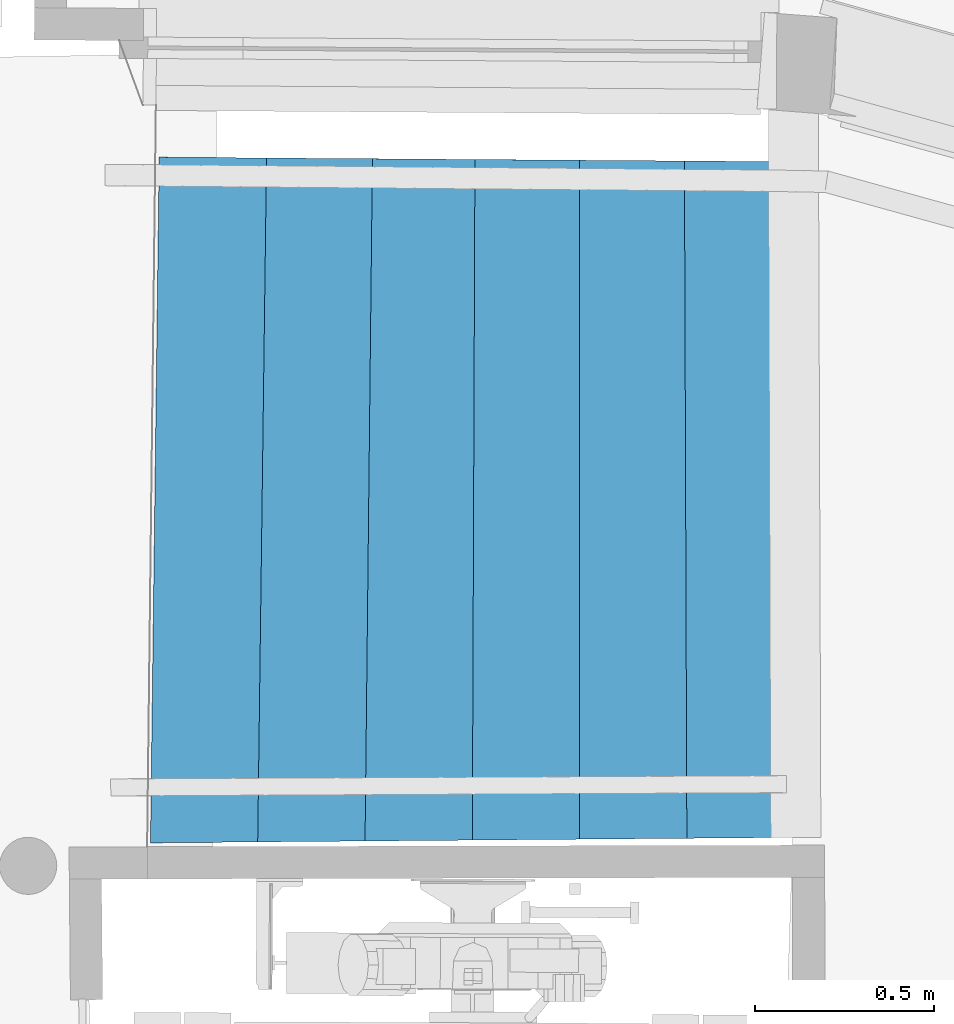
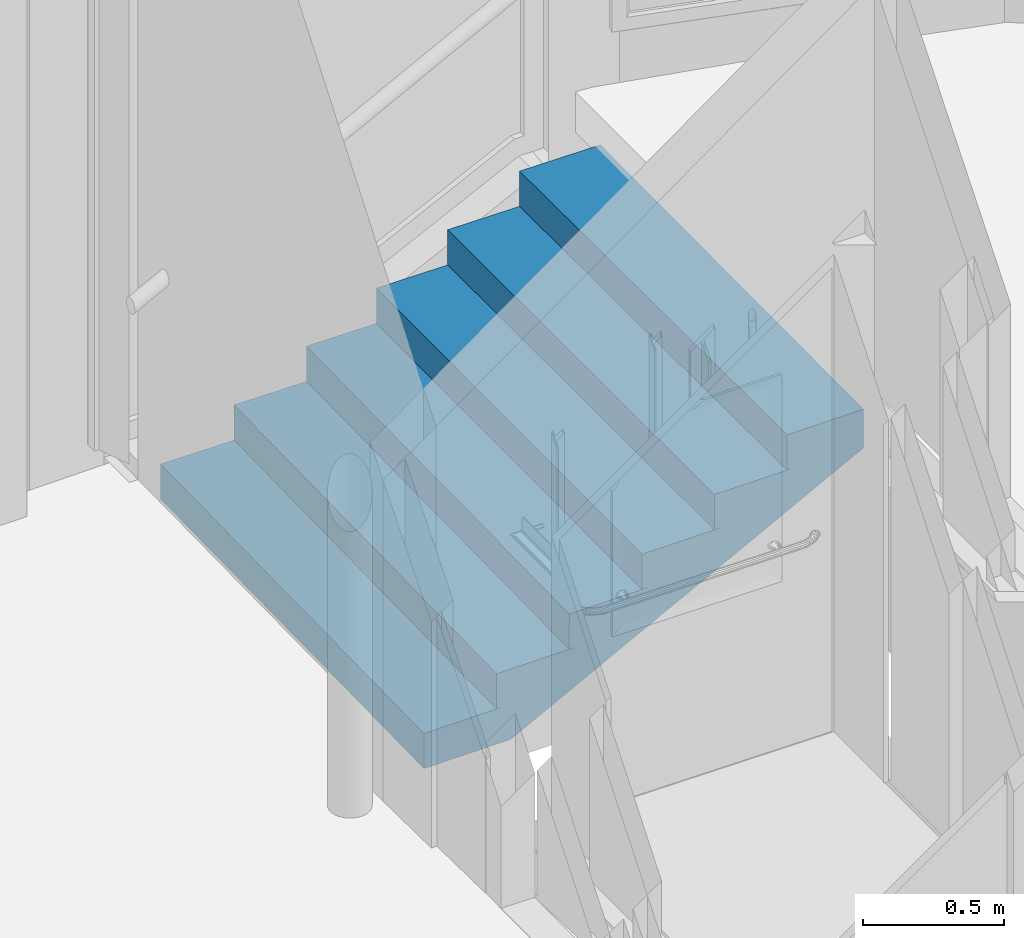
# One storey, part 115 of 133: 1 stair flight, 1 element without a shape of its own.
"""IFC2X3 building model written with IfcOpenShell, lengths in centimetres."""

from ifc_helpers import new_model, entity, si_unit, converted_unit, direction, frame, origin, origin_with_axes, place, context, subcontext, project, spatial, faceted_brep, material, material_list, element, aggregate, save


model = new_model("IFC2X3")

# Units and contexts
model_context = context("Model", 3, precision=0.0001, world=origin(), true_north=direction((0.225632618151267, 0.974212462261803, 0.0)))
body_context = subcontext(model_context, "Body", "Model", "MODEL_VIEW")
ifc_project = project(units=[si_unit("LENGTHUNIT", "METRE", prefix="CENTI"), si_unit("AREAUNIT", "SQUARE_METRE", prefix="CENTI"), si_unit("VOLUMEUNIT", "CUBIC_METRE", prefix="CENTI"), converted_unit("PLANEANGLEUNIT", "DEGREE", entity("IfcRatioMeasure", 0.0174532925), si_unit("PLANEANGLEUNIT", "RADIAN"), dimensions=[0, 0, 0, 0, 0, 0, 0])], contexts=[model_context])

# Site, building, storey
site_placement = place(None, origin_with_axes())
site = spatial("IfcSite", under=ifc_project, at=site_placement, Name="Default Site", CompositionType="ELEMENT")
building_placement = place(site_placement, origin_with_axes())
building = spatial("IfcBuilding", under=site, at=building_placement, Name="Default Building", CompositionType="ELEMENT")
storey_placement = place(building_placement, frame((0.0, 0.0, -291.400371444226), z_axis=(0.0, 0.0, 1.0), x_axis=(1.0, 0.0, 0.0)))
storey = spatial("IfcBuildingStorey", under=building, at=storey_placement, Name="Rez-de-Jardin", CompositionType="ELEMENT", Elevation=-291.400371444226)

# Stair, stair flight
stair_placement = place(storey_placement, frame((1123.85386276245, -333.715009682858, 0.0), z_axis=(0.0, 0.0, 1.0), x_axis=(1.0, 0.0, 0.0)))
stair = element("IfcStair", 1, at=stair_placement, inside=storey, Name="Escalier 574859", ShapeType="NOTDEFINED")
ifc_material_1 = material(Name="Béton (01)")
ifc_material_2 = material(Name="Carreau décoré (85)")
ifc_material_list = material_list([ifc_material_1, ifc_material_2])
stair_flight_placement = place(stair_placement, frame((1.21775817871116, 95.7964658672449, 12.2857197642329), z_axis=(0.0, 0.0, 1.0), x_axis=(0.999919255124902, -0.012707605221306, 0.0)))
stair_flight = element("IfcStairFlight", 2, at=stair_flight_placement, material=ifc_material_list, Name="4294967279", context=body_context, shape_type="Brep", body=[
    faceted_brep([(-3.00002479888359, 0.0, -12.2857093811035), (0.0, 0.0, -12.2857093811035), (-0.000419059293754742, -191.608384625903, -12.2857093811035), (-3.0003481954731, -191.608407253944, -12.2857093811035), (0.0, 0.0, 0.0), (-3.00002479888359, 0.0, 0.0), (-3.0003481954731, -191.608407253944, 0.0), (-0.000419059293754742, -191.608384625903, 0.0), (-3.00034813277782, -191.608407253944, -12.2857093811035), (-3.00002486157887, 1.05796551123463e-13, 0.0), (-3.00002479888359, 1.56408225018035e-10, -12.2857093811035), (-8.1544435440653e-21, -1.56408225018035e-10, 0.0), (-8.43849590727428e-08, 1.8451791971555e-13, -12.2857093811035), (-0.000418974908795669, -191.608384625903, 0.0), (-0.000419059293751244, -191.608384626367, -12.2857093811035), (-3.00034819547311, -191.60840725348, 0.0)], [[[0, 1, 2]], [[2, 3, 0]], [[4, 5, 6]], [[6, 7, 4]], [[5, 0, 8]], [[3, 6, 9]], [[4, 1, 10]], [[0, 5, 11]], [[7, 2, 12]], [[1, 4, 13]], [[6, 3, 14]], [[2, 7, 15]]]),
    faceted_brep([(27.0000026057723, 0.167452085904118, 2.99999713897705), (30.0000340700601, 0.166927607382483, 2.99999713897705), (29.9657245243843, -190.973619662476, 2.99999713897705), (26.9656927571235, -190.973071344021, 2.99999713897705), (30.0000340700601, 0.166927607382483, 15.2857065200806), (27.0000026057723, 0.167452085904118, 15.2857065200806), (26.9656927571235, -190.973071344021, 15.2857065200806), (29.9657245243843, -190.973619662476, 15.2857065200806), (26.9656927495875, -190.97307134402, 2.99999713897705), (27.0000026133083, 0.167452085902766, 15.2857065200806), (27.0000026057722, 0.167452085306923, 2.99999713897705), (30.0000340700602, 0.166927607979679, 15.2857065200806), (30.0000340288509, 0.16692760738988, 2.99999713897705), (29.9657245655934, -190.973619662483, 15.2857065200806), (29.9657245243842, -190.973619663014, 2.99999713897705), (26.9656927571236, -190.973071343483, 15.2857065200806)], [[[0, 1, 2]], [[2, 3, 0]], [[4, 5, 6]], [[6, 7, 4]], [[5, 0, 8]], [[3, 6, 9]], [[4, 1, 10]], [[0, 5, 11]], [[7, 2, 12]], [[1, 4, 13]], [[6, 3, 14]], [[2, 7, 15]]]),
    faceted_brep([(56.5980427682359, 0.325908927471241, 18.2857036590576), (59.5979951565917, 0.331606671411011, 18.2857036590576), (59.9602816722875, -190.338207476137, 18.2857036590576), (56.9602339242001, -190.343906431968, 18.2857036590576), (59.5979951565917, 0.331606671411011, 30.5714130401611), (56.5980427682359, 0.325908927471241, 30.5714130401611), (56.9602339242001, -190.343906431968, 30.5714130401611), (59.9602816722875, -190.338207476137, 30.5714130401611), (56.9602339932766, -190.343906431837, 18.2857036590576), (56.5980426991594, 0.325908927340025, 30.5714130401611), (56.5980427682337, 0.325908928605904, 18.2857036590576), (59.5979951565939, 0.331606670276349, 30.5714130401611), (59.5979950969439, 0.331606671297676, 18.2857036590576), (59.9602817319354, -190.338207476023, 30.5714130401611), (59.9602816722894, -190.338207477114, 18.2857036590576), (56.9602339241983, -190.34390643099, 30.5714130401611)], [[[0, 1, 2]], [[2, 3, 0]], [[4, 5, 6]], [[6, 7, 4]], [[5, 0, 8]], [[3, 6, 9]], [[4, 1, 10]], [[0, 5, 11]], [[7, 2, 12]], [[1, 4, 13]], [[6, 3, 14]], [[2, 7, 15]]]),
    faceted_brep([(85.2527890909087, 0.464509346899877, 33.5714340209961), (88.2526674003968, 0.491045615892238, 33.5714340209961), (89.9359600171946, -189.703225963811, 33.5714340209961), (86.9360817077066, -189.729762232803, 33.5714340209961), (88.2526674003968, 0.491045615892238, 45.8571434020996), (85.2527890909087, 0.464509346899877, 45.8571434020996), (86.9360817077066, -189.729762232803, 45.8571434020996), (89.9359600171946, -189.703225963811, 45.8571434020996), (86.9360817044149, -189.729762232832, 33.5714340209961), (85.2527890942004, 0.46450934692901, 45.8571434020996), (85.2527890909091, 0.464509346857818, 33.5714340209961), (88.2526674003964, 0.491045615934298, 45.8571434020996), (88.2526674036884, 0.491045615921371, 33.5714340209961), (89.935960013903, -189.70322596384, 45.8571434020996), (89.9359600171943, -189.703225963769, 33.5714340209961), (86.936081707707, -189.729762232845, 45.8571434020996)], [[[0, 1, 2]], [[2, 3, 0]], [[4, 5, 6]], [[6, 7, 4]], [[5, 0, 8]], [[3, 6, 9]], [[4, 1, 10]], [[0, 5, 11]], [[7, 2, 12]], [[1, 4, 13]], [[6, 3, 14]], [[2, 7, 15]]]),
    faceted_brep([(114.44940720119, 0.614526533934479, 48.8571405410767), (117.449127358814, 0.653507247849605, 48.8571405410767), (119.913926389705, -189.06816768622, 48.8571405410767), (116.91420623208, -189.107148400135, 48.8571405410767), (117.449127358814, 0.653507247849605, 61.1428499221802), (114.44940720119, 0.614526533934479, 61.1428499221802), (116.91420623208, -189.107148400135, 61.1428499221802), (119.913926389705, -189.06816768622, 61.1428499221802), (116.914206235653, -189.107148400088, 48.8571405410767), (114.449407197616, 0.614526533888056, 61.1428499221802), (114.44940720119, 0.61452653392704, 48.8571405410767), (117.449127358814, 0.653507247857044, 61.1428499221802), (117.449127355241, 0.653507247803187, 48.8571405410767), (119.913926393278, -189.068167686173, 61.1428499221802), (119.913926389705, -189.068167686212, 48.8571405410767), (116.91420623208, -189.107148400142, 61.1428499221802)], [[[0, 1, 2]], [[2, 3, 0]], [[4, 5, 6]], [[6, 7, 4]], [[5, 0, 8]], [[3, 6, 9]], [[4, 1, 10]], [[0, 5, 11]], [[7, 2, 12]], [[1, 4, 13]], [[6, 3, 14]], [[2, 7, 15]]]),
    faceted_brep([(143.807642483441, 0.767980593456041, 64.1428470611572), (146.807236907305, 0.816854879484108, 64.1428470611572), (149.890462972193, -188.433175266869, 64.1428470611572), (146.890868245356, -188.482025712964, 64.1428470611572), (146.807236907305, 0.816854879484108, 76.4285802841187), (143.807642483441, 0.767980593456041, 76.4285802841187), (146.890868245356, -188.482025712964, 76.4285802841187), (149.890462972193, -188.433175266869, 76.4285802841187), (146.89086827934, -188.482025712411, 64.1428470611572), (143.807642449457, 0.767980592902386, 76.4285802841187), (143.807642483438, 0.767980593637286, 64.1428470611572), (146.807236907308, 0.816854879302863, 76.4285802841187), (146.807236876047, 0.816854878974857, 64.1428470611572), (149.890463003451, -188.43317526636, 76.4285802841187), (149.890462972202, -188.433175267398, 64.1428470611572), (146.890868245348, -188.482025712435, 76.4285802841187)], [[[0, 1, 2]], [[2, 3, 0]], [[4, 5, 6]], [[6, 7, 4]], [[5, 0, 8]], [[3, 6, 9]], [[4, 1, 10]], [[0, 5, 11]], [[7, 2, 12]], [[1, 4, 13]], [[6, 3, 14]], [[2, 7, 15]]]),
    faceted_brep([(-0.000419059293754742, -191.608384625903, -12.2857093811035), (-0.000419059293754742, -191.608384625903, 0.0), (-8.43849590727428e-08, 1.8451791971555e-13, 0.0), (0.0, 0.0, 0.0), (0.0, 0.0, -12.2857093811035), (-0.000418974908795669, -191.608384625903, -12.2857093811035), (29.9657245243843, -190.973619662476, 0.0), (29.9657245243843, -190.973619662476, 15.2857065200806), (30.0000340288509, 0.16692760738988, 15.2857065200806), (30.0000340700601, 0.166927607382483, 15.2857065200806), (30.0000340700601, 0.166927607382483, 0.0), (29.9657245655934, -190.973619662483, 0.0), (59.9602816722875, -190.338207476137, 15.2857065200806), (59.9602816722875, -190.338207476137, 30.5714130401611), (59.5979950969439, 0.331606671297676, 30.5714130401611), (59.5979951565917, 0.331606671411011, 30.5714130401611), (59.5979951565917, 0.331606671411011, 15.2857065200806), (59.9602817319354, -190.338207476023, 15.2857065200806), (89.9359600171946, -189.703225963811, 30.5714130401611), (89.9359600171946, -189.703225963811, 45.8571434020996), (88.2526674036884, 0.491045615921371, 45.8571434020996), (88.2526674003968, 0.491045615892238, 45.8571434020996), (88.2526674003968, 0.491045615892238, 30.5714130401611), (89.935960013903, -189.70322596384, 30.5714130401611), (119.913926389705, -189.06816768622, 45.8571434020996), (119.913926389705, -189.06816768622, 61.1428499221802), (117.449127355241, 0.653507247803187, 61.1428499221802), (117.449127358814, 0.653507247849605, 61.1428499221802), (117.449127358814, 0.653507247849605, 45.8571434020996), (119.913926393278, -189.068167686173, 45.8571434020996), (149.890462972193, -188.433175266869, 61.1428499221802), (149.890462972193, -188.433175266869, 76.4285802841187), (146.807236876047, 0.816854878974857, 76.4285802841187), (146.807236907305, 0.816854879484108, 76.4285802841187), (146.807236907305, 0.816854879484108, 61.1428499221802), (149.890463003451, -188.43317526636, 61.1428499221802), (178.356091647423, -187.830164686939, 76.4285802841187), (176.89472372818, 0.984273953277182, 76.4285802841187), (178.356091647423, -187.830164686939, 62.547492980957), (176.894723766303, 0.984273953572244, 62.547492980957), (176.89472372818, 0.984273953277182, 62.547492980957), (178.3560916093, -187.830164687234, 76.4285802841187), (32.5595309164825, 0.18116712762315, -12.2857093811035), (32.828210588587, -190.91296841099, -12.2857093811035), (29.9657245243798, -190.973619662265, 2.50152202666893e-16), (-0.000419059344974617, -191.608384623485, -12.2857093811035), (32.8282105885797, -190.912968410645, -12.2857093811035), (32.8282105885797, -190.912968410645, 15.2857065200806), (29.9657245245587, -190.973619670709, 0.0), (59.9602816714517, -190.338207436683, 15.2857065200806), (32.8282105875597, -190.912968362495, -12.2857093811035), (178.356091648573, -187.830164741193, 62.5474929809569), (89.9359600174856, -189.703225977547, 30.5714130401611), (178.356091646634, -187.830164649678, 62.5474929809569), (119.913926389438, -189.068167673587, 45.8571434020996), (178.35609164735, -187.830164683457, 62.547492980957), (149.890462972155, -188.433175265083, 61.1428499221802), (178.356091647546, -187.830164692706, 62.547492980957), (178.356091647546, -187.830164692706, 76.4285802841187), (149.890462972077, -188.433175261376, 61.1428499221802), (119.913926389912, -189.068167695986, 45.8571434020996), (89.9359600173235, -189.703225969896, 30.5714130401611), (32.828210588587, -190.91296841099, 15.2857065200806), (59.9602816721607, -190.338207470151, 15.2857065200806), (32.5595309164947, 0.18116712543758, -12.2857093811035), (-1.27157562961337e-11, 2.28526085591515e-09, -4.00492725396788e-16), (30.0000340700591, 0.166927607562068, -3.14721991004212e-17), (30.0000340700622, 0.166927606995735, 0.0), (32.5595309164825, 0.18116712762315, 15.2857065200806), (30.0000340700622, 0.166927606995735, 8.50315472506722e-29), (30.0000340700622, 0.166927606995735, 15.2857065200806), (59.5979951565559, 0.331606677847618, 15.2857065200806), (176.894723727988, 0.984273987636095, 62.5474929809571), (32.55953091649, 0.181167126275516, -12.2857093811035), (32.55953091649, 0.181167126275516, 15.2857065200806), (59.5979951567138, 0.331606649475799, 15.2857065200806), (88.252667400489, 0.491045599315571, 30.5714130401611), (59.5979951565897, 0.331606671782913, 15.2857065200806), (59.5979951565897, 0.331606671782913, 30.5714130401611), (88.2526674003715, 0.491045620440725, 30.5714130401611), (117.449127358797, 0.653507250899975, 45.8571434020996), (88.2526674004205, 0.491045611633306, 30.5714130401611), (88.2526674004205, 0.491045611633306, 45.8571434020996), (117.449127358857, 0.653507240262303, 45.8571434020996), (146.807236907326, 0.81685487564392, 61.1428499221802), (117.449127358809, 0.653507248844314, 45.8571434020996), (117.449127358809, 0.653507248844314, 61.1428499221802), (146.807236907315, 0.816854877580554, 61.1428499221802), (146.807236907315, 0.816854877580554, 76.4285802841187), (178.356091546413, -187.830164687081, 62.5474931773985), (32.8282105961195, -190.91296841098, -12.2857093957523), (178.356091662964, -187.830164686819, 62.5474929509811), (32.5595325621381, 0.181167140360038, -12.2857125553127)], [[[0, 1, 2]], [[3, 4, 5]], [[6, 7, 8]], [[9, 10, 11]], [[12, 13, 14]], [[15, 16, 17]], [[18, 19, 20]], [[21, 22, 23]], [[24, 25, 26]], [[27, 28, 29]], [[30, 31, 32]], [[33, 34, 35]], [[3, 1, 6]], [[6, 10, 3]], [[9, 7, 12]], [[12, 16, 9]], [[15, 13, 18]], [[18, 22, 15]], [[21, 19, 24]], [[24, 28, 21]], [[25, 30, 34]], [[34, 27, 25]], [[33, 31, 36]], [[36, 37, 33]], [[36, 38, 39]], [[40, 37, 41]], [[4, 42, 43]], [[43, 0, 4]], [[43, 44, 45]], [[6, 46, 47]], [[6, 47, 7]], [[1, 0, 48]], [[38, 49, 50]], [[12, 51, 52]], [[18, 53, 54]], [[24, 55, 56]], [[30, 57, 31]], [[31, 57, 58]], [[25, 24, 59]], [[19, 18, 60]], [[13, 12, 61]], [[62, 43, 63]], [[3, 64, 4]], [[42, 65, 66]], [[42, 67, 68]], [[68, 69, 70]], [[42, 71, 72]], [[16, 73, 74]], [[40, 75, 76]], [[22, 77, 78]], [[40, 79, 80]], [[28, 81, 82]], [[40, 83, 84]], [[34, 85, 86]], [[40, 87, 88]], [[40, 88, 37]], [[42, 89, 90]], [[40, 91, 92]]]),
    faceted_brep([(-3.00000343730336, -0.0166903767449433, 2.99999713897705), (-3.0003993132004, -191.671927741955, 2.99999713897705), (29.9657245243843, -190.973619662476, 2.99999713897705), (30.0000340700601, 0.166927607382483, 2.99999713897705), (29.9657245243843, -190.973619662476, 0.0), (-3.0003993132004, -191.671927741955, 0.0), (-3.00000343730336, -0.0166903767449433, 0.0), (30.0000340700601, 0.166927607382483, 0.0), (-3.00000343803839, -0.0166903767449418, 2.99999713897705), (-3.00039931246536, -191.671927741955, 0.0), (-3.00039931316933, -191.671927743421, 2.99999713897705), (29.9657245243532, -190.973619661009, 0.0), (29.9657245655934, -190.973619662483, 2.99999713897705), (30.0000340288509, 0.16692760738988, 0.0), (30.0000340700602, 0.166927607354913, 2.99999713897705), (-3.00000343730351, -0.0166903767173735, 0.0)], [[[0, 1, 2]], [[2, 3, 0]], [[4, 5, 6]], [[6, 7, 4]], [[5, 1, 8]], [[0, 6, 9]], [[4, 2, 10]], [[1, 5, 11]], [[7, 3, 12]], [[2, 4, 13]], [[6, 0, 14]], [[3, 7, 15]]]),
    faceted_brep([(27.0000306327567, 0.15023723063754, 18.2857036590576), (26.9656489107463, -191.037163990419, 18.2857036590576), (59.9602816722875, -190.338207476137, 18.2857036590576), (59.5979951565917, 0.331606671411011, 18.2857036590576), (59.9602816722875, -190.338207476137, 15.2857065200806), (26.9656489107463, -191.037163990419, 15.2857065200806), (27.0000306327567, 0.15023723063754, 15.2857065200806), (59.5979951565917, 0.331606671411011, 15.2857065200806), (27.000030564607, 0.150237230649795, 18.2857036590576), (26.9656489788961, -191.037163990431, 15.2857065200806), (26.9656489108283, -191.037163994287, 18.2857036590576), (59.9602816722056, -190.338207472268, 15.2857065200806), (59.9602817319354, -190.338207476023, 18.2857036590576), (59.5979950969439, 0.331606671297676, 15.2857065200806), (59.5979951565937, 0.331606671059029, 18.2857036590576), (27.0000306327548, 0.150237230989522, 15.2857065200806)], [[[0, 1, 2]], [[2, 3, 0]], [[4, 5, 6]], [[6, 7, 4]], [[5, 1, 8]], [[0, 6, 9]], [[4, 2, 10]], [[1, 5, 11]], [[7, 3, 12]], [[2, 4, 13]], [[6, 0, 14]], [[3, 7, 15]]]),
    faceted_brep([(56.5980870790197, 0.314917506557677, 33.5714340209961), (56.960396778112, -190.401749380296, 33.5714340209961), (89.9359600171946, -189.703225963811, 33.5714340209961), (88.2526674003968, 0.491045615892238, 33.5714340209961), (89.9359600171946, -189.703225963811, 30.5714130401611), (56.960396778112, -190.401749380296, 30.5714130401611), (56.5980870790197, 0.314917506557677, 30.5714130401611), (88.2526674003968, 0.491045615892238, 30.5714130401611), (56.5980870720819, 0.314917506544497, 33.5714340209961), (56.9603967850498, -190.401749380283, 30.5714130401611), (56.9603967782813, -190.401749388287, 33.5714340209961), (89.9359600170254, -189.703225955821, 30.5714130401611), (89.935960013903, -189.70322596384, 33.5714340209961), (88.2526674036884, 0.491045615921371, 30.5714130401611), (88.2526674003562, 0.491045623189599, 33.5714340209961), (56.5980870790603, 0.314917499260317, 30.5714130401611)], [[[0, 1, 2]], [[2, 3, 0]], [[4, 5, 6]], [[6, 7, 4]], [[5, 1, 8]], [[0, 6, 9]], [[4, 2, 10]], [[1, 5, 11]], [[7, 3, 12]], [[2, 4, 13]], [[6, 0, 14]], [[3, 7, 15]]]),
    faceted_brep([(85.2527890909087, 0.464509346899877, 48.8571405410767), (86.9364565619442, -189.766763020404, 48.8571405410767), (119.913926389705, -189.06816768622, 48.8571405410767), (117.449127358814, 0.653507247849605, 48.8571405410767), (119.913926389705, -189.06816768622, 45.8571434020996), (86.9364565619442, -189.766763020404, 45.8571434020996), (85.2527890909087, 0.464509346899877, 45.8571434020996), (117.449127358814, 0.653507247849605, 45.8571434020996), (85.2527890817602, 0.464509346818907, 48.8571405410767), (86.9364565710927, -189.766763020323, 45.8571434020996), (86.9364565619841, -189.766763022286, 48.8571405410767), (119.913926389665, -189.068167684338, 45.8571434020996), (119.913926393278, -189.068167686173, 48.8571405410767), (117.449127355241, 0.653507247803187, 45.8571434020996), (117.449127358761, 0.653507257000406, 48.8571405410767), (85.2527890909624, 0.464509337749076, 45.8571434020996)], [[[0, 1, 2]], [[2, 3, 0]], [[4, 5, 6]], [[6, 7, 4]], [[5, 1, 8]], [[0, 6, 9]], [[4, 2, 10]], [[1, 5, 11]], [[7, 3, 12]], [[2, 4, 13]], [[6, 0, 14]], [[3, 7, 15]]]),
    faceted_brep([(116.914518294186, -189.131703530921, 64.1428470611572), (149.890462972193, -188.433175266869, 64.1428470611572), (146.807236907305, 0.816854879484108, 64.1428470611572), (114.449123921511, 0.636816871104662, 64.1428470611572), (146.807236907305, 0.816854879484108, 61.1428499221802), (149.890462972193, -188.433175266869, 61.1428499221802), (116.914518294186, -189.131703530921, 61.1428499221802), (114.449123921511, 0.636816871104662, 61.1428499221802), (114.449123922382, 0.636816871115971, 64.1428470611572), (116.914518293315, -189.131703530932, 61.1428499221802), (116.914518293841, -189.131703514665, 64.1428470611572), (149.890462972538, -188.433175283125, 61.1428499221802), (149.890463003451, -188.43317526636, 64.1428470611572), (146.807236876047, 0.816854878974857, 61.1428499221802), (146.807236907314, 0.816854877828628, 64.1428470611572), (114.449123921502, 0.636816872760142, 61.1428499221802)], [[[0, 1, 2]], [[2, 3, 0]], [[4, 5, 6]], [[6, 7, 4]], [[6, 0, 8]], [[3, 7, 9]], [[5, 1, 10]], [[0, 6, 11]], [[4, 2, 12]], [[1, 5, 13]], [[7, 3, 14]], [[2, 4, 15]]]),
    faceted_brep([(143.80713811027, 0.800163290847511, 79.4285655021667), (146.891150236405, -188.496709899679, 79.4285655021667), (178.356091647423, -187.830164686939, 79.4285655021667), (176.89472372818, 0.984273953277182, 79.4285655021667), (178.356091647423, -187.830164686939, 76.4285802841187), (146.891150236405, -188.496709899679, 76.4285802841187), (143.80713811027, 0.800163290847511, 76.4285802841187), (176.89472372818, 0.984273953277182, 76.4285802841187), (143.807138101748, 0.800163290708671, 79.4285655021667), (146.891150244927, -188.49670989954, 76.4285802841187), (146.891150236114, -188.49670988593, 79.4285655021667), (178.356091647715, -187.830164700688, 76.4285802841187), (178.3560916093, -187.830164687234, 79.4285655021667), (176.894723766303, 0.984273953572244, 76.4285802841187), (176.894723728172, 0.984273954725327, 79.4285655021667), (143.807138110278, 0.800163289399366, 76.4285802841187)], [[[0, 1, 2]], [[2, 3, 0]], [[4, 5, 6]], [[6, 7, 4]], [[5, 1, 8]], [[0, 6, 9]], [[4, 2, 10]], [[1, 5, 11]], [[7, 3, 12]], [[2, 4, 13]], [[6, 0, 14]], [[3, 7, 15]]]),
])
aggregate(stair, [stair_flight])

save(model, "model.ifc")
